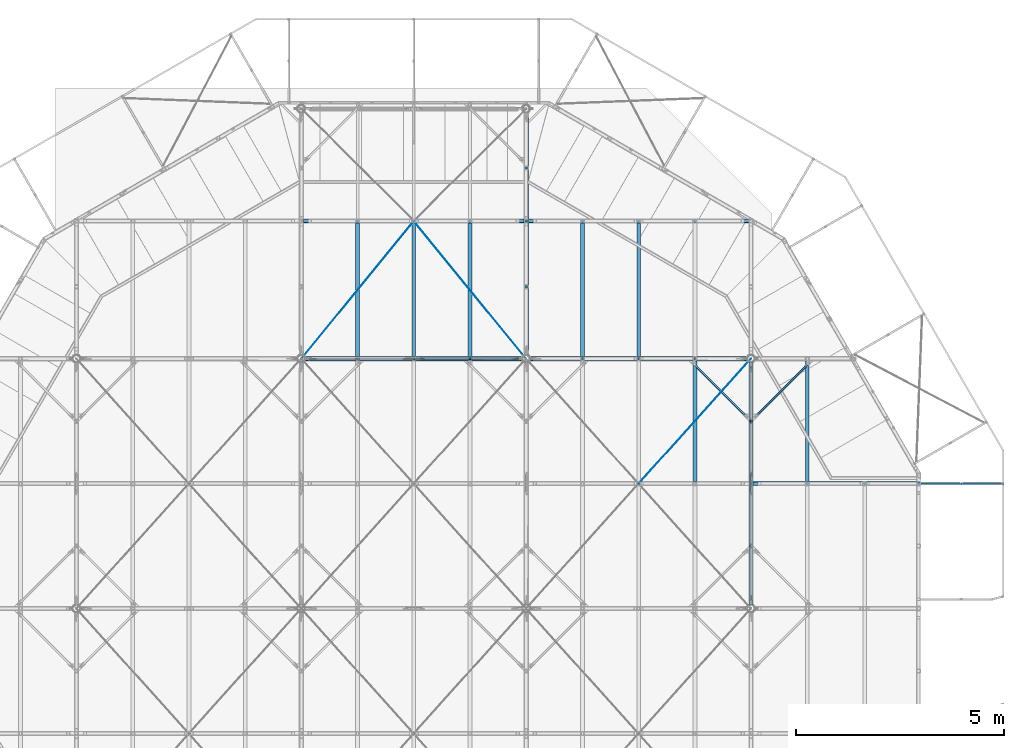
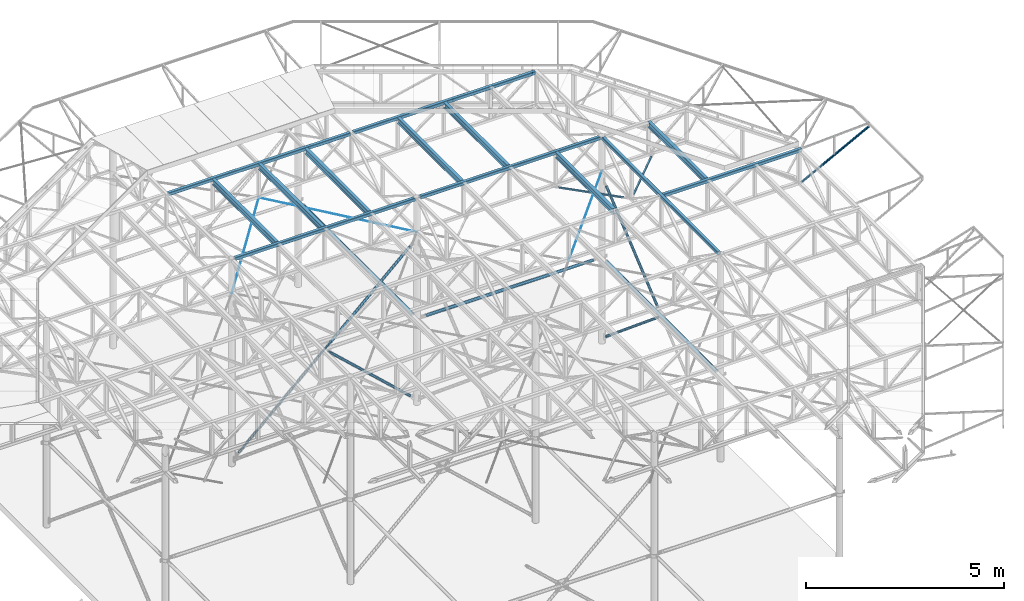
# One storey, part 18 of 132: 21 beams, 7 members, 28 elements without a shape of their own.
"""IFC2X3 building model written with IfcOpenShell, lengths in millimetres."""

from ifc_helpers import new_model, si_unit, frame, origin_with_axes, origin_2d_with_axis, place, context, subcontext, project, spatial, rectangle, hollow_rectangle, circle, hollow_circle, i_section, extrude, boolean, clip, halfspace, material, type_object, element, aggregate, save


model = new_model("IFC2X3")

# Units and contexts
model_context = context("Model", 3, precision=1e-05, world=origin_with_axes())
body_context = subcontext(model_context, "Body", "Model", "MODEL_VIEW")
ifc_project = project(units=[si_unit("LENGTHUNIT", "METRE", prefix="MILLI"), si_unit("AREAUNIT", "SQUARE_METRE"), si_unit("VOLUMEUNIT", "CUBIC_METRE"), si_unit("MASSUNIT", "GRAM", prefix="KILO"), si_unit("TIMEUNIT", "SECOND"), si_unit("PLANEANGLEUNIT", "RADIAN"), si_unit("SOLIDANGLEUNIT", "STERADIAN"), si_unit("THERMODYNAMICTEMPERATUREUNIT", "DEGREE_CELSIUS"), si_unit("LUMINOUSINTENSITYUNIT", "LUMEN")], contexts=[model_context])

# Site, building, storey
site_placement = place(None, origin_with_axes())
site = spatial("IfcSite", under=ifc_project, at=site_placement, Name="Budowa", CompositionType="ELEMENT")
building_placement = place(site_placement, origin_with_axes())
building = spatial("IfcBuilding", under=site, at=building_placement, Name="Undefined", CompositionType="ELEMENT")
storey_placement = place(building_placement, origin_with_axes())
storey = spatial("IfcBuildingStorey", under=building, at=storey_placement, Name="Undefined", CompositionType="ELEMENT", Elevation=0.0)

# Assembly, member
assembly_1_placement = place(storey_placement, origin_with_axes())
assembly_1 = element("IfcElementAssembly", 1, at=assembly_1_placement, inside=storey, Name="Steel Assembly", AssemblyPlace="NOTDEFINED", PredefinedType="RIGID_FRAME")
ifc_material_1 = material(Name="STEEL/S235JR")
member_type_1 = type_object("IfcMemberType", Name="CHS76.1*3", PredefinedType="NOTDEFINED")
member_1_placement = place(assembly_1_placement, frame((12125.0013347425, 17990.0000000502, 10116.0003779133), z_axis=(0.0, -1.0, 0.0), x_axis=(0.734552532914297, 0.0, -0.678551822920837)))
member_1 = element("IfcMember", 2, at=member_1_placement, type_object=member_type_1, material=ifc_material_1, Name="BEAM", ObjectType="CHS76.1*3", context=body_context, shape_type="CSG", body=[
    boolean("DIFFERENCE", boolean("DIFFERENCE", boolean("DIFFERENCE", boolean("DIFFERENCE", extrude(hollow_circle(Radius=38.05, WallThickness=3.0, at=origin_2d_with_axis()), frame((3399.19575233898, -1.88693269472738e-13, 0.0), z_axis=(-1.0, 0.0, 0.0), x_axis=(0.0, -1.0, 0.0)), (0.0, 0.0, 1.0), 3169.77), extrude(rectangle(XDim=10.0, YDim=80.1, at=origin_2d_with_axis()), frame((310.424563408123, 8.74467165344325e-13, 2.93223274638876e-06), z_axis=(-1.0, 0.0, 0.0), x_axis=(0.0, 0.0, -1.0)), (0.0, 0.0, 1.0), 83.0)), extrude(rectangle(XDim=10.0, YDim=78.1, at=origin_2d_with_axis()), frame((3318.19575233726, 0.0, 2.70282180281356e-06), z_axis=(1.0, 0.0, 0.0), x_axis=(0.0, 0.0, -1.0)), (0.0, 0.0, 1.0), 93.0)), halfspace(frame((3399.1957523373, -5.45696821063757e-12, -11.9999972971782), z_axis=(-1.0, 0.0, 0.0), x_axis=(0.0, 1.0, 0.0)), True)), halfspace(frame((229.424563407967, 5.45696821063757e-12, -11.9999970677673), z_axis=(1.0, 0.0, 0.0), x_axis=(0.0, -1.0, 0.0)), True)),
])
aggregate(assembly_1, [member_1])

assembly_2_placement = place(storey_placement, origin_with_axes())
assembly_2 = element("IfcElementAssembly", 3, at=assembly_2_placement, inside=storey, Name="Steel Assembly", AssemblyPlace="NOTDEFINED", PredefinedType="RIGID_FRAME")
member_2_placement = place(assembly_2_placement, frame((14684.1014860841, 17990.0000000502, 12480.0002212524), z_axis=(0.0, -1.0, 0.0), x_axis=(-0.734552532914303, 0.0, -0.67855182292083)))
member_2 = element("IfcMember", 4, at=member_2_placement, type_object=member_type_1, material=ifc_material_1, Name="BEAM", ObjectType="CHS76.1*3", context=body_context, shape_type="CSG", body=[
    boolean("DIFFERENCE", boolean("DIFFERENCE", boolean("DIFFERENCE", boolean("DIFFERENCE", extrude(hollow_circle(Radius=38.05, WallThickness=3.0, at=origin_2d_with_axis()), frame((3254.46533546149, 0.0, 0.0), z_axis=(-1.0, 0.0, 0.0), x_axis=(0.0, -1.0, 0.0)), (0.0, 0.0, 1.0), 3169.77), extrude(rectangle(XDim=10.0, YDim=80.1, at=origin_2d_with_axis()), frame((3173.46533545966, 5.74262859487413e-12, 3.21735569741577e-06), z_axis=(1.0, 0.0, 0.0), x_axis=(0.0, 0.0, -1.0)), (0.0, 0.0, 1.0), 83.0)), extrude(rectangle(XDim=10.0, YDim=78.1, at=origin_2d_with_axis()), frame((165.694149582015, 0.0, 2.42306850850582e-06), z_axis=(-1.0, 0.0, 0.0), x_axis=(0.0, 0.0, -1.0)), (0.0, 0.0, 1.0), 93.0)), halfspace(frame((3254.46533545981, 3.63797880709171e-12, -11.9999967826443), z_axis=(-1.0, 0.0, 0.0), x_axis=(0.0, 1.0, 0.0)), True)), halfspace(frame((84.6941495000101, -0.00128033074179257, -11.9999975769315), z_axis=(1.0, 0.0, 0.0), x_axis=(0.0, -1.0, 0.0)), True)),
])
aggregate(assembly_2, [member_2])

assembly_3_placement = place(storey_placement, origin_with_axes())
assembly_3 = element("IfcElementAssembly", 5, at=assembly_3_placement, inside=storey, Name="Steel Assembly", AssemblyPlace="NOTDEFINED", PredefinedType="RIGID_FRAME")
member_3_placement = place(assembly_3_placement, frame((20233.000002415, 17860.1013797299, 7739.00004577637), z_axis=(-1.0, 0.0, 0.0), x_axis=(0.0, -0.76906919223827, 0.639165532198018)))
member_3 = element("IfcMember", 6, at=member_3_placement, type_object=member_type_1, material=ifc_material_1, Name="BEAM", ObjectType="CHS76.1*3", context=body_context, shape_type="CSG", body=[
    boolean("DIFFERENCE", boolean("DIFFERENCE", boolean("DIFFERENCE", boolean("DIFFERENCE", extrude(hollow_circle(Radius=38.05, WallThickness=3.0, at=origin_2d_with_axis()), frame((3481.05096829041, 0.0, 0.0), z_axis=(-1.0, 0.0, 0.0), x_axis=(0.0, -1.0, 0.0)), (0.0, 0.0, 1.0), 3395.69), extrude(rectangle(XDim=10.0, YDim=80.1, at=origin_2d_with_axis()), frame((3400.05097323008, 9.67559365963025e-14, 1.74737942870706e-06), z_axis=(1.0, 0.0, 0.0), x_axis=(0.0, 0.0, 1.0)), (0.0, 0.0, 1.0), 83.0)), extrude(rectangle(XDim=10.0, YDim=78.0, at=origin_2d_with_axis()), frame((166.363191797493, 5.83418868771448e-11, 2.32343882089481e-06), z_axis=(-1.0, 0.0, 0.0), x_axis=(0.0, 0.0, 1.0)), (0.0, 0.0, 1.0), 93.0)), halfspace(frame((3481.05096828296, 1.09139364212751e-11, 12.0000029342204), z_axis=(-1.0, 0.0, 0.0), x_axis=(0.0, -1.0, 0.0)), True)), halfspace(frame((85.3631917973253, 4.72937244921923e-11, 12.0000023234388), z_axis=(1.0, 0.0, 0.0), x_axis=(0.0, 1.0, 0.0)), True)),
])
aggregate(assembly_3, [member_3])

assembly_4_placement = place(storey_placement, origin_with_axes())
assembly_4 = element("IfcElementAssembly", 7, at=assembly_4_placement, inside=storey, Name="Steel Assembly", AssemblyPlace="NOTDEFINED", PredefinedType="RIGID_FRAME")
member_4_placement = place(assembly_4_placement, frame((20233.0000024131, 17860.1013797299, 12492.9997558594), z_axis=(-1.0, 0.0, 0.0), x_axis=(0.0, -0.769069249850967, -0.639165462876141)))
member_4 = element("IfcMember", 8, at=member_4_placement, type_object=member_type_1, material=ifc_material_1, Name="BEAM", ObjectType="CHS76.1*3", context=body_context, shape_type="CSG", body=[
    boolean("DIFFERENCE", boolean("DIFFERENCE", boolean("DIFFERENCE", boolean("DIFFERENCE", extrude(hollow_circle(Radius=38.05, WallThickness=3.0, at=origin_2d_with_axis()), frame((3481.04986608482, -1.93237085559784e-13, 0.0), z_axis=(-1.0, 0.0, 0.0), x_axis=(0.0, -1.0, 0.0)), (0.0, 0.0, 1.0), 3395.69), extrude(rectangle(XDim=10.0, YDim=80.1, at=origin_2d_with_axis()), frame((3400.04985885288, -5.34461364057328e-13, 2.0142820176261e-06), z_axis=(1.0, 0.0, 0.0), x_axis=(0.0, 0.0, 1.0)), (0.0, 0.0, 1.0), 83.0)), extrude(rectangle(XDim=10.0, YDim=88.0, at=origin_2d_with_axis()), frame((166.363191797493, 5.83418868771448e-11, 2.32343882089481e-06), z_axis=(-1.0, 0.0, 0.0), x_axis=(0.0, 0.0, 1.0)), (0.0, 0.0, 1.0), 93.0)), halfspace(frame((3481.04986608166, -1.72803993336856e-11, 12.0000032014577), z_axis=(-1.0, 0.0, 0.0), x_axis=(0.0, -1.0, 0.0)), True)), halfspace(frame((85.3631917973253, 4.72937244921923e-11, 12.0000023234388), z_axis=(1.0, 0.0, 0.0), x_axis=(0.0, 1.0, 0.0)), True)),
])
aggregate(assembly_4, [member_4])

# Assembly, beam
assembly_5_placement = place(storey_placement, origin_with_axes())
assembly_5 = element("IfcElementAssembly", 9, at=assembly_5_placement, inside=storey, Name="Steel Assembly", AssemblyPlace="NOTDEFINED", PredefinedType="RIGID_FRAME")
beam_type_1 = type_object("IfcBeamType", Name="CHS88.9*3", PredefinedType="NOTDEFINED")
beam_1_placement = place(assembly_5_placement, frame((14832.9999935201, 18088.900000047, 10116.0003779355), z_axis=(1.0, 0.0, 0.0), x_axis=(0.0, 1.0, 0.0)))
beam_1 = element("IfcBeam", 10, at=beam_1_placement, type_object=beam_type_1, material=ifc_material_1, Name="BEAM", ObjectType="CHS88.9*3", context=body_context, shape_type="CSG", body=[
    boolean("DIFFERENCE", boolean("DIFFERENCE", boolean("DIFFERENCE", boolean("DIFFERENCE", extrude(hollow_circle(Radius=44.45, WallThickness=3.0, at=origin_2d_with_axis()), frame((5703.19209466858, 0.0, 0.0), z_axis=(-1.0, 0.0, 0.0), x_axis=(0.0, -1.0, 0.0)), (0.0, 0.0, 1.0), 5584.18), extrude(rectangle(XDim=9.0, YDim=92.9, at=origin_2d_with_axis()), frame((5602.19209466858, 0.0, 3.70549059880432e-06), z_axis=(1.0, 0.0, 0.0), x_axis=(0.0, 0.0, -1.0)), (0.0, 0.0, 1.0), 103.0)), extrude(rectangle(XDim=9.0, YDim=92.9, at=origin_2d_with_axis()), frame((220.00790537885, 0.0, 3.42542261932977e-06), z_axis=(-1.0, 0.0, 0.0), x_axis=(0.0, 0.0, -1.0)), (0.0, 0.0, 1.0), 103.0)), halfspace(frame((5703.19209466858, 0.0, -11.9999962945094), z_axis=(-1.0, 0.0, 0.0), x_axis=(0.0, 1.0, 0.0)), True)), halfspace(frame((119.00790537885, 0.0, -11.9999965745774), z_axis=(1.0, 0.0, 0.0), x_axis=(0.0, -1.0, 0.0)), True)),
])
aggregate(assembly_5, [beam_1])

assembly_6_placement = place(storey_placement, origin_with_axes())
assembly_6 = element("IfcElementAssembly", 11, at=assembly_6_placement, inside=storey, Name="Steel Assembly", AssemblyPlace="NOTDEFINED", PredefinedType="RIGID_FRAME")
beam_2_placement = place(assembly_6_placement, frame((14913.9011382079, 17998.0000028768, 10116.0003779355), z_axis=(0.0, -1.0, 0.0), x_axis=(1.0, 0.0, 0.0)))
beam_2 = element("IfcBeam", 12, at=beam_2_placement, type_object=beam_type_1, material=ifc_material_1, Name="BEAM", ObjectType="CHS88.9*3", context=body_context, shape_type="CSG", body=[
    boolean("DIFFERENCE", boolean("DIFFERENCE", boolean("DIFFERENCE", boolean("DIFFERENCE", boolean("DIFFERENCE", extrude(hollow_circle(Radius=44.45, WallThickness=3.0, at=origin_2d_with_axis()), frame((5057.96216744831, 0.0, 0.0), z_axis=(-1.0, 0.0, 0.0), x_axis=(0.0, -1.0, 0.0)), (0.0, 0.0, 1.0), 4893.73), extrude(rectangle(XDim=9.0, YDim=92.9, at=origin_2d_with_axis()), frame((265.235555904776, 1.81898940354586e-12, 3.42543353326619e-06), z_axis=(-1.0, 0.0, 0.0), x_axis=(0.0, 0.0, 1.0)), (0.0, 0.0, 1.0), 103.0)), extrude(rectangle(XDim=9.0, YDim=92.9, at=origin_2d_with_axis()), frame((4956.96216744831, 1.81898940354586e-12, 3.42543353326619e-06), z_axis=(1.0, 0.0, 0.0), x_axis=(0.0, 0.0, -1.0)), (0.0, 0.0, 1.0), 103.0)), extrude(rectangle(XDim=8.0, YDim=80.1, at=origin_2d_with_axis()), frame((5006.96216666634, 0.0, 2.93223274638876e-06), z_axis=(1.0, 0.0, 0.0), x_axis=(0.0, 0.0, 1.0)), (0.0, 0.0, 1.0), 82.0)), halfspace(frame((5057.96216744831, 1.81898940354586e-12, -11.9999965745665), z_axis=(-1.0, 0.0, 0.0), x_axis=(0.0, 1.0, 0.0)), True)), halfspace(frame((164.235555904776, 1.81898940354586e-12, -11.9999965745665), z_axis=(1.0, 0.0, 0.0), x_axis=(0.0, 0.0, 1.0)), True)),
])
aggregate(assembly_6, [beam_2])

assembly_7_placement = place(storey_placement, origin_with_axes())
assembly_7 = element("IfcElementAssembly", 13, at=assembly_7_placement, inside=storey, Name="Steel Assembly", AssemblyPlace="NOTDEFINED", PredefinedType="RIGID_FRAME")
beam_3_placement = place(assembly_7_placement, frame((20232.9999935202, 12088.900000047, 10116.0003779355), z_axis=(1.0, 0.0, 0.0), x_axis=(0.0, 1.0, 0.0)))
beam_3 = element("IfcBeam", 14, at=beam_3_placement, type_object=beam_type_1, material=ifc_material_1, Name="BEAM", ObjectType="CHS88.9*3", context=body_context, shape_type="CSG", body=[
    boolean("DIFFERENCE", boolean("DIFFERENCE", boolean("DIFFERENCE", boolean("DIFFERENCE", extrude(hollow_circle(Radius=44.45, WallThickness=3.0, at=origin_2d_with_axis()), frame((5703.19209466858, 0.0, 0.0), z_axis=(-1.0, 0.0, 0.0), x_axis=(0.0, -1.0, 0.0)), (0.0, 0.0, 1.0), 5584.18), extrude(rectangle(XDim=9.0, YDim=92.9, at=origin_2d_with_axis()), frame((5602.19209466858, 0.0, 3.70549059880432e-06), z_axis=(1.0, 0.0, 0.0), x_axis=(0.0, 0.0, -1.0)), (0.0, 0.0, 1.0), 103.0)), extrude(rectangle(XDim=9.0, YDim=92.9, at=origin_2d_with_axis()), frame((220.00790537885, 0.0, 3.42542261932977e-06), z_axis=(-1.0, 0.0, 0.0), x_axis=(0.0, 0.0, -1.0)), (0.0, 0.0, 1.0), 103.0)), halfspace(frame((5703.19209466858, 0.0, -11.9999962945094), z_axis=(-1.0, 0.0, 0.0), x_axis=(0.0, 1.0, 0.0)), True)), halfspace(frame((119.00790537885, 0.0, -11.9999965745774), z_axis=(1.0, 0.0, 0.0), x_axis=(0.0, -1.0, 0.0)), True)),
])
aggregate(assembly_7, [beam_3])

# Assembly, member
assembly_8_placement = place(storey_placement, origin_with_axes())
assembly_8 = element("IfcElementAssembly", 15, at=assembly_8_placement, inside=storey, Name="Steel Assembly", AssemblyPlace="NOTDEFINED", PredefinedType="RIGID_FRAME")
ifc_material_2 = material(Name="STEEL/S235")
member_type_2 = type_object("IfcMemberType", Name="CHS60.3*6.3", PredefinedType="NOTDEFINED")
member_5_placement = place(assembly_8_placement, frame((12125.0013347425, 17992.0000000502, 10116.0003779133), z_axis=(0.0, -1.0, 0.0), x_axis=(0.734552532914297, 0.0, -0.678551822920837)))
member_5 = element("IfcMember", 16, at=member_5_placement, type_object=member_type_2, material=ifc_material_2, Name="BEAM", ObjectType="CHS60.3*6.3", context=body_context, shape_type="CSG", body=[
    boolean("DIFFERENCE", boolean("DIFFERENCE", boolean("DIFFERENCE", boolean("DIFFERENCE", extrude(hollow_circle(Radius=30.15, WallThickness=6.3, at=origin_2d_with_axis()), frame((3409.19575233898, -1.89248380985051e-13, -3.63797880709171e-12), z_axis=(-1.0, 0.0, 0.0), x_axis=(0.0, -1.0, 0.0)), (0.0, 0.0, 1.0), 3266.98), extrude(rectangle(XDim=8.0, YDim=64.3, at=origin_2d_with_axis()), frame((3359.19575233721, 2.18269846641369e-12, 2.70281816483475e-06), z_axis=(1.0, 0.0, 0.0), x_axis=(0.0, 0.0, -1.0)), (0.0, 0.0, 1.0), 52.0)), extrude(rectangle(XDim=8.0, YDim=64.3, at=origin_2d_with_axis()), frame((192.216896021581, -3.32911476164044e-12, 2.323435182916e-06), z_axis=(-1.0, 0.0, 0.0), x_axis=(0.0, 0.0, -1.0)), (0.0, 0.0, 1.0), 52.0)), halfspace(frame((3409.1957523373, 0.0, -11.9999972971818), z_axis=(-1.0, 0.0, 0.0), x_axis=(0.0, 1.0, 0.0)), True)), halfspace(frame((142.216896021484, -5.45696821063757e-12, -11.9999976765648), z_axis=(1.0, 0.0, 0.0), x_axis=(0.0, -1.0, 0.0)), True)),
])
aggregate(assembly_8, [member_5])

assembly_9_placement = place(storey_placement, origin_with_axes())
assembly_9 = element("IfcElementAssembly", 17, at=assembly_9_placement, inside=storey, Name="Steel Assembly", AssemblyPlace="NOTDEFINED", PredefinedType="RIGID_FRAME")
member_6_placement = place(assembly_9_placement, frame((14684.1014860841, 17992.0000000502, 12480.0002212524), z_axis=(0.0, -1.0, 0.0), x_axis=(-0.734552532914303, 0.0, -0.67855182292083)))
member_6 = element("IfcMember", 18, at=member_6_placement, type_object=member_type_2, material=ifc_material_2, Name="BEAM", ObjectType="CHS60.3*6.3", context=body_context, shape_type="CSG", body=[
    boolean("DIFFERENCE", boolean("DIFFERENCE", boolean("DIFFERENCE", boolean("DIFFERENCE", extrude(hollow_circle(Radius=30.15, WallThickness=6.3, at=origin_2d_with_axis()), frame((6893.08928483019, 3.82643321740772e-13, -3.63797880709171e-12), z_axis=(-1.0, 0.0, 0.0), x_axis=(0.0, -1.0, 0.0)), (0.0, 0.0, 1.0), 6818.4), extrude(rectangle(XDim=8.0, YDim=64.3, at=origin_2d_with_axis()), frame((124.694149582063, -2.13606909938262e-13, 2.42306487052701e-06), z_axis=(-1.0, 0.0, 0.0), x_axis=(0.0, 0.0, -1.0)), (0.0, 0.0, 1.0), 52.0)), extrude(rectangle(XDim=8.0, YDim=64.3, at=origin_2d_with_axis()), frame((6843.08928482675, 2.23465690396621e-12, 2.42306487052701e-06), z_axis=(1.0, 0.0, 0.0), x_axis=(0.0, 0.0, -1.0)), (0.0, 0.0, 1.0), 52.0)), halfspace(frame((6893.08928482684, 4.54747350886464e-12, -11.9999975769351), z_axis=(-1.0, 0.0, 0.0), x_axis=(0.0, 1.0, 0.0)), True)), halfspace(frame((74.6941495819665, -3.63797880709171e-12, -11.9999975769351), z_axis=(1.0, 0.0, 0.0), x_axis=(0.0, -1.0, 0.0)), True)),
])
aggregate(assembly_9, [member_6])

# Assembly, beam
assembly_10_placement = place(storey_placement, origin_with_axes())
assembly_10 = element("IfcElementAssembly", 19, at=assembly_10_placement, inside=storey, Name="Steel Assembly", AssemblyPlace="NOTDEFINED", PredefinedType="RIGID_FRAME")
beam_type_2 = type_object("IfcBeamType", Name="IPE180", PredefinedType="NOTDEFINED")
beam_4_placement = place(assembly_10_placement, frame((21573.8999999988, 15050.0000000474, 13790.0), z_axis=(0.0, 0.0, 1.0), x_axis=(0.0, 1.0, 0.0)))
beam_4 = element("IfcBeam", 20, at=beam_4_placement, type_object=beam_type_2, material=ifc_material_2, Name="BEAM", ObjectType="IPE180", context=body_context, shape_type="SweptSolid", body=[
    extrude(i_section(OverallWidth=91.0, OverallDepth=180.0, WebThickness=5.300000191, FlangeThickness=8.0, FilletRadius=9.0, at=origin_2d_with_axis()), frame((2900.00000000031, 0.0, 0.0), z_axis=(-1.0, 0.0, 0.0), x_axis=(0.0, -1.0, 0.0)), (0.0, 0.0, 1.0), 2900.0),
])
aggregate(assembly_10, [beam_4])

assembly_11_placement = place(storey_placement, origin_with_axes())
assembly_11 = element("IfcElementAssembly", 21, at=assembly_11_placement, inside=storey, Name="Steel Assembly", AssemblyPlace="NOTDEFINED", PredefinedType="RIGID_FRAME")
beam_5_placement = place(assembly_11_placement, frame((16174.9999999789, 18050.000000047, 13790.0), z_axis=(0.0, 0.0, 1.0), x_axis=(0.0, 1.0, 0.0)))
beam_5 = element("IfcBeam", 22, at=beam_5_placement, type_object=beam_type_2, material=ifc_material_2, Name="BEAM", ObjectType="IPE180", context=body_context, shape_type="SweptSolid", body=[
    extrude(i_section(OverallWidth=91.0, OverallDepth=180.0, WebThickness=5.300000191, FlangeThickness=8.0, FilletRadius=9.0, at=origin_2d_with_axis()), frame((3209.99999999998, 0.0, 0.0), z_axis=(-1.0, 0.0, 0.0), x_axis=(0.0, -1.0, 0.0)), (0.0, 0.0, 1.0), 3210.0),
])
aggregate(assembly_11, [beam_5])

assembly_12_placement = place(storey_placement, origin_with_axes())
assembly_12 = element("IfcElementAssembly", 23, at=assembly_12_placement, inside=storey, Name="Steel Assembly", AssemblyPlace="NOTDEFINED", PredefinedType="RIGID_FRAME")
beam_6_placement = place(assembly_12_placement, frame((18874.9999999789, 15050.0000000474, 13790.0), z_axis=(0.0, 0.0, 1.0), x_axis=(0.0, 1.0, 0.0)))
beam_6 = element("IfcBeam", 24, at=beam_6_placement, type_object=beam_type_2, material=ifc_material_2, Name="BEAM", ObjectType="IPE180", context=body_context, shape_type="SweptSolid", body=[
    extrude(i_section(OverallWidth=91.0, OverallDepth=180.0, WebThickness=5.300000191, FlangeThickness=8.0, FilletRadius=9.0, at=origin_2d_with_axis()), frame((2900.00000000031, 0.0, 0.0), z_axis=(-1.0, 0.0, 0.0), x_axis=(0.0, -1.0, 0.0)), (0.0, 0.0, 1.0), 2900.0),
])
aggregate(assembly_12, [beam_6])

assembly_13_placement = place(storey_placement, origin_with_axes())
assembly_13 = element("IfcElementAssembly", 25, at=assembly_13_placement, inside=storey, Name="Steel Assembly", AssemblyPlace="NOTDEFINED", PredefinedType="RIGID_FRAME")
beam_7_placement = place(assembly_13_placement, frame((17524.9999999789, 18050.000000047, 13790.0), z_axis=(0.0, 0.0, 1.0), x_axis=(0.0, 1.0, 0.0)))
beam_7 = element("IfcBeam", 26, at=beam_7_placement, type_object=beam_type_2, material=ifc_material_2, Name="BEAM", ObjectType="IPE180", context=body_context, shape_type="SweptSolid", body=[
    extrude(i_section(OverallWidth=91.0, OverallDepth=180.0, WebThickness=5.300000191, FlangeThickness=8.0, FilletRadius=9.0, at=origin_2d_with_axis()), frame((3209.99999999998, 0.0, 0.0), z_axis=(-1.0, 0.0, 0.0), x_axis=(0.0, -1.0, 0.0)), (0.0, 0.0, 1.0), 3210.0),
])
aggregate(assembly_13, [beam_7])

assembly_14_placement = place(storey_placement, origin_with_axes())
assembly_14 = element("IfcElementAssembly", 27, at=assembly_14_placement, inside=storey, Name="Steel Assembly", AssemblyPlace="NOTDEFINED", PredefinedType="RIGID_FRAME")
beam_8_placement = place(assembly_14_placement, frame((10774.9999999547, 18050.000000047, 13790.0), z_axis=(0.0, 0.0, 1.0), x_axis=(0.0, 1.0, 0.0)))
beam_8 = element("IfcBeam", 28, at=beam_8_placement, type_object=beam_type_2, material=ifc_material_2, Name="BEAM", ObjectType="IPE180", context=body_context, shape_type="SweptSolid", body=[
    extrude(i_section(OverallWidth=91.0, OverallDepth=180.0, WebThickness=5.300000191, FlangeThickness=8.0, FilletRadius=9.0, at=origin_2d_with_axis()), frame((3209.99999999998, 0.0, 0.0), z_axis=(-1.0, 0.0, 0.0), x_axis=(0.0, -1.0, 0.0)), (0.0, 0.0, 1.0), 3210.0),
])
aggregate(assembly_14, [beam_8])

assembly_15_placement = place(storey_placement, origin_with_axes())
assembly_15 = element("IfcElementAssembly", 29, at=assembly_15_placement, inside=storey, Name="Steel Assembly", AssemblyPlace="NOTDEFINED", PredefinedType="RIGID_FRAME")
beam_9_placement = place(assembly_15_placement, frame((13474.9999999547, 18050.000000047, 13790.0), z_axis=(0.0, 0.0, 1.0), x_axis=(0.0, 1.0, 0.0)))
beam_9 = element("IfcBeam", 30, at=beam_9_placement, type_object=beam_type_2, material=ifc_material_2, Name="BEAM", ObjectType="IPE180", context=body_context, shape_type="SweptSolid", body=[
    extrude(i_section(OverallWidth=91.0, OverallDepth=180.0, WebThickness=5.300000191, FlangeThickness=8.0, FilletRadius=9.0, at=origin_2d_with_axis()), frame((3209.99999999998, 0.0, 0.0), z_axis=(-1.0, 0.0, 0.0), x_axis=(0.0, -1.0, 0.0)), (0.0, 0.0, 1.0), 3210.0),
])
aggregate(assembly_15, [beam_9])

assembly_16_placement = place(storey_placement, origin_with_axes())
assembly_16 = element("IfcElementAssembly", 31, at=assembly_16_placement, inside=storey, Name="Steel Assembly", AssemblyPlace="NOTDEFINED", PredefinedType="RIGID_FRAME")
beam_10_placement = place(assembly_16_placement, frame((12124.9999999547, 18050.000000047, 13790.0), z_axis=(0.0, 0.0, 1.0), x_axis=(0.0, 1.0, 0.0)))
beam_10 = element("IfcBeam", 32, at=beam_10_placement, type_object=beam_type_2, material=ifc_material_2, Name="BEAM", ObjectType="IPE180", context=body_context, shape_type="SweptSolid", body=[
    extrude(i_section(OverallWidth=91.0, OverallDepth=180.0, WebThickness=5.300000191, FlangeThickness=8.0, FilletRadius=9.0, at=origin_2d_with_axis()), frame((3209.99999999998, 0.0, 0.0), z_axis=(-1.0, 0.0, 0.0), x_axis=(0.0, -1.0, 0.0)), (0.0, 0.0, 1.0), 3210.0),
])
aggregate(assembly_16, [beam_10])

# Assembly, member
assembly_17_placement = place(storey_placement, origin_with_axes())
assembly_17 = element("IfcElementAssembly", 33, at=assembly_17_placement, inside=storey, Name="Steel Assembly", AssemblyPlace="NOTDEFINED", PredefinedType="RIGID_FRAME")
member_type_3 = type_object("IfcMemberType", Name="SHS50*4", PredefinedType="NOTDEFINED")
member_7_placement = place(assembly_17_placement, frame((24288.2796111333, 15000.0000000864, 12802.1351883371), z_axis=(0.0, 1.0, 0.0), x_axis=(0.885407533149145, 0.0, 0.464815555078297)))
member_7 = element("IfcMember", 34, at=member_7_placement, type_object=member_type_3, material=ifc_material_2, Name="BEAM", ObjectType="SHS50*4", context=body_context, shape_type="Clipping", body=[
    clip(clip(extrude(hollow_rectangle(XDim=50.0, YDim=50.0, WallThickness=4.0, InnerFilletRadius=4.0, OuterFilletRadius=8.0, at=origin_2d_with_axis()), frame((2286.55526217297, 7.105427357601e-15, -1.81898940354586e-12), z_axis=(-1.0, 0.0, 0.0), x_axis=(0.0, -1.0, 0.0)), (0.0, 0.0, 1.0), 2286.56), halfspace(frame((26.2486785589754, -24.9999999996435, -25.0000000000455), z_axis=(-0.885407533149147, -0.464815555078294, 0.0), x_axis=(-0.464815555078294, 0.885407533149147, 0.0)), False)), halfspace(frame((2258.9602037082, 25.0000000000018, -1.41881173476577e-10), z_axis=(-0.855808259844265, 0.517293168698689, 0.0), x_axis=(0.0, 0.0, 1.0)), True)),
])
aggregate(assembly_17, [member_7])

# Assembly, beam
assembly_18_placement = place(storey_placement, origin_with_axes())
assembly_18 = element("IfcElementAssembly", 35, at=assembly_18_placement, inside=storey, Name="Steel Assembly", AssemblyPlace="NOTDEFINED", PredefinedType="RIGID_FRAME")
beam_type_3 = type_object("IfcBeamType", Name="D16", PredefinedType="NOTDEFINED")
beam_11_placement = place(assembly_18_placement, frame((20224.9999999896, 18000.0000000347, 12780.0), z_axis=(0.0, 0.0, 1.0), x_axis=(-0.668964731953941, -0.743294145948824, 0.0)))
beam_11 = element("IfcBeam", 36, at=beam_11_placement, type_object=beam_type_3, material=ifc_material_2, Name="BEAM", ObjectType="D16", context=body_context, shape_type="SweptSolid", body=[
    extrude(circle(Radius=8.0, at=origin_2d_with_axis()), frame((4036.08721501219, 2.30699503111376e-13, 1.81898940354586e-12), z_axis=(-1.0, 0.0, 0.0), x_axis=(0.0, -1.0, 0.0)), (0.0, 0.0, 1.0), 4036.09),
])
aggregate(assembly_18, [beam_11])

assembly_19_placement = place(storey_placement, origin_with_axes())
assembly_19 = element("IfcElementAssembly", 37, at=assembly_19_placement, inside=storey, Name="Steel Assembly", AssemblyPlace="NOTDEFINED", PredefinedType="RIGID_FRAME")
beam_12_placement = place(assembly_19_placement, frame((9424.99999994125, 18000.0000000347, 12780.0), z_axis=(0.0, 0.0, 1.0), x_axis=(0.632089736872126, 0.774895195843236, 0.0)))
beam_12 = element("IfcBeam", 38, at=beam_12_placement, type_object=beam_type_3, material=ifc_material_2, Name="BEAM", ObjectType="D16", context=body_context, shape_type="SweptSolid", body=[
    extrude(circle(Radius=8.0, at=origin_2d_with_axis()), frame((4271.54538738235, 0.0, 0.0), z_axis=(-1.0, 0.0, 0.0), x_axis=(0.0, -1.0, 0.0)), (0.0, 0.0, 1.0), 4271.55),
])
aggregate(assembly_19, [beam_12])

assembly_20_placement = place(storey_placement, origin_with_axes())
assembly_20 = element("IfcElementAssembly", 39, at=assembly_20_placement, inside=storey, Name="Steel Assembly", AssemblyPlace="NOTDEFINED", PredefinedType="RIGID_FRAME")
beam_13_placement = place(assembly_20_placement, frame((12124.9999993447, 21309.9999994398, 12780.0), z_axis=(0.0, 0.0, 1.0), x_axis=(0.632089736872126, -0.774895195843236, 0.0)))
beam_13 = element("IfcBeam", 40, at=beam_13_placement, type_object=beam_type_3, material=ifc_material_2, Name="BEAM", ObjectType="D16", context=body_context, shape_type="SweptSolid", body=[
    extrude(circle(Radius=8.0, at=origin_2d_with_axis()), frame((4271.54538738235, 0.0, 0.0), z_axis=(-1.0, 0.0, 0.0), x_axis=(0.0, -1.0, 0.0)), (0.0, 0.0, 1.0), 4271.55),
])
aggregate(assembly_20, [beam_13])

assembly_21_placement = place(storey_placement, origin_with_axes())
assembly_21 = element("IfcElementAssembly", 41, at=assembly_21_placement, inside=storey, Name="Steel Assembly", AssemblyPlace="NOTDEFINED", PredefinedType="RIGID_FRAME")
beam_type_4 = type_object("IfcBeamType", Name="SHS50*5", PredefinedType="NOTDEFINED")
beam_14_placement = place(assembly_21_placement, frame((19975.0000000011, 16250.0000000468, 12830.0), z_axis=(0.0, 0.0, 1.0), x_axis=(0.707106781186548, 0.707106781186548, 0.0)))
beam_14 = element("IfcBeam", 42, at=beam_14_placement, type_object=beam_type_4, material=ifc_material_2, Name="BEAM", ObjectType="SHS50*5", context=body_context, shape_type="Clipping", body=[
    clip(clip(extrude(hollow_rectangle(XDim=50.0, YDim=50.0, WallThickness=5.0, InnerFilletRadius=5.0, OuterFilletRadius=10.0, at=origin_2d_with_axis()), frame((2264.36406349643, -1.81898940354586e-12, 1.81898940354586e-12), z_axis=(-1.0, 0.0, 0.0), x_axis=(0.0, -1.0, 0.0)), (0.0, 0.0, 1.0), 1700.3), halfspace(frame((2264.36406350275, 1.44245859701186e-09, -8.99999999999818), z_axis=(-1.0, 0.0, 0.0), x_axis=(0.0, 1.0, 0.0)), True)), halfspace(frame((564.063061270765, -1.43882061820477e-09, -8.99999999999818), z_axis=(1.0, 0.0, 0.0), x_axis=(0.0, -1.0, 0.0)), True)),
])
aggregate(assembly_21, [beam_14])

assembly_22_placement = place(storey_placement, origin_with_axes())
assembly_22 = element("IfcElementAssembly", 43, at=assembly_22_placement, inside=storey, Name="Steel Assembly", AssemblyPlace="NOTDEFINED", PredefinedType="RIGID_FRAME")
beam_15_placement = place(assembly_22_placement, frame((20475.0000000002, 16250.0000000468, 12830.0), z_axis=(0.0, 0.0, 1.0), x_axis=(-0.707106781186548, 0.707106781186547, 0.0)))
beam_15 = element("IfcBeam", 44, at=beam_15_placement, type_object=beam_type_4, material=ifc_material_2, Name="BEAM", ObjectType="SHS50*5", context=body_context, shape_type="Clipping", body=[
    clip(clip(extrude(hollow_rectangle(XDim=50.0, YDim=50.0, WallThickness=5.0, InnerFilletRadius=5.0, OuterFilletRadius=10.0, at=origin_2d_with_axis()), frame((2264.36406349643, -1.81898940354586e-12, 1.81898940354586e-12), z_axis=(-1.0, 0.0, 0.0), x_axis=(0.0, -1.0, 0.0)), (0.0, 0.0, 1.0), 1700.3), halfspace(frame((2264.36406350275, 1.44245859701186e-09, -8.99999999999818), z_axis=(-1.0, 0.0, 0.0), x_axis=(0.0, 1.0, 0.0)), True)), halfspace(frame((564.063061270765, -1.43882061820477e-09, -8.99999999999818), z_axis=(1.0, 0.0, 0.0), x_axis=(0.0, -1.0, 0.0)), True)),
])
aggregate(assembly_22, [beam_15])

assembly_23_placement = place(storey_placement, origin_with_axes())
assembly_23 = element("IfcElementAssembly", 45, at=assembly_23_placement, inside=storey, Name="Steel Assembly", AssemblyPlace="NOTDEFINED", PredefinedType="RIGID_FRAME")
beam_type_5 = type_object("IfcBeamType", Name="SHS100*8", PredefinedType="NOTDEFINED")
beam_16_placement = place(assembly_23_placement, frame((20274.9, 15000.000000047, 13830.0), z_axis=(0.0, -1.0, 0.0), x_axis=(1.0, 0.0, 0.0)))
beam_16 = element("IfcBeam", 46, at=beam_16_placement, type_object=beam_type_5, material=ifc_material_2, Name="BEAM", ObjectType="SHS100*8", context=body_context, shape_type="SweptSolid", body=[
    extrude(hollow_rectangle(XDim=100.0, YDim=100.0, WallThickness=8.0, InnerFilletRadius=8.0, OuterFilletRadius=16.0, at=origin_2d_with_axis()), frame((4025.0, 0.0, 0.0), z_axis=(-1.0, 0.0, 0.0), x_axis=(0.0, -1.0, 0.0)), (0.0, 0.0, 1.0), 4025.0),
])
aggregate(assembly_23, [beam_16])

assembly_24_placement = place(storey_placement, origin_with_axes())
assembly_24 = element("IfcElementAssembly", 47, at=assembly_24_placement, inside=storey, Name="Steel Assembly", AssemblyPlace="NOTDEFINED", PredefinedType="RIGID_FRAME")
beam_17_placement = place(assembly_24_placement, frame((14874.9999999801, 21310.000000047, 13830.0), z_axis=(0.0, -1.0, 0.0), x_axis=(1.0, 0.0, 0.0)))
beam_17 = element("IfcBeam", 48, at=beam_17_placement, type_object=beam_type_5, material=ifc_material_2, Name="BEAM", ObjectType="SHS100*8", context=body_context, shape_type="SweptSolid", body=[
    extrude(hollow_rectangle(XDim=100.0, YDim=100.0, WallThickness=8.0, InnerFilletRadius=8.0, OuterFilletRadius=16.0, at=origin_2d_with_axis()), frame((5300.0, 0.0, 0.0), z_axis=(-1.0, 0.0, 0.0), x_axis=(0.0, -1.0, 0.0)), (0.0, 0.0, 1.0), 5300.0),
])
aggregate(assembly_24, [beam_17])

assembly_25_placement = place(storey_placement, origin_with_axes())
assembly_25 = element("IfcElementAssembly", 49, at=assembly_25_placement, inside=storey, Name="Steel Assembly", AssemblyPlace="NOTDEFINED", PredefinedType="RIGID_FRAME")
beam_18_placement = place(assembly_25_placement, frame((9474.9999999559, 21310.000000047, 13830.0), z_axis=(0.0, -1.0, 0.0), x_axis=(1.0, 0.0, 0.0)))
beam_18 = element("IfcBeam", 50, at=beam_18_placement, type_object=beam_type_5, material=ifc_material_2, Name="BEAM", ObjectType="SHS100*8", context=body_context, shape_type="SweptSolid", body=[
    extrude(hollow_rectangle(XDim=100.0, YDim=100.0, WallThickness=8.0, InnerFilletRadius=8.0, OuterFilletRadius=16.0, at=origin_2d_with_axis()), frame((5300.0, 0.0, 0.0), z_axis=(-1.0, 0.0, 0.0), x_axis=(0.0, -1.0, 0.0)), (0.0, 0.0, 1.0), 5300.0),
])
aggregate(assembly_25, [beam_18])

assembly_26_placement = place(storey_placement, origin_with_axes())
assembly_26 = element("IfcElementAssembly", 51, at=assembly_26_placement, inside=storey, Name="Steel Assembly", AssemblyPlace="NOTDEFINED", PredefinedType="RIGID_FRAME")
beam_19_placement = place(assembly_26_placement, frame((20225.0, 12088.900000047, 13830.0), z_axis=(1.0, 0.0, 0.0), x_axis=(0.0, 1.0, 0.0)))
beam_19 = element("IfcBeam", 52, at=beam_19_placement, type_object=beam_type_5, material=ifc_material_2, Name="BEAM", ObjectType="SHS100*8", context=body_context, shape_type="CSG", body=[
    boolean("DIFFERENCE", boolean("DIFFERENCE", boolean("DIFFERENCE", boolean("DIFFERENCE", extrude(hollow_rectangle(XDim=100.0, YDim=100.0, WallThickness=8.0, InnerFilletRadius=8.0, OuterFilletRadius=16.0, at=origin_2d_with_axis()), frame((5911.09999999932, 0.0, 0.0), z_axis=(-1.0, 0.0, 0.0), x_axis=(0.0, -1.0, 0.0)), (0.0, 0.0, 1.0), 6000.0), extrude(circle(Radius=89.9, at=origin_2d_with_axis()), frame((5911.09999999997, 1950.0, 0.0), z_axis=(0.0, -1.0, 0.0), x_axis=(-1.0, 0.0, 0.0)), (0.0, 0.0, 1.0), 2100.0)), extrude(circle(Radius=89.9, at=origin_2d_with_axis()), frame((-88.9000000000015, 1950.0, -5.45696821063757e-12), z_axis=(0.0, -1.0, 0.0), x_axis=(-1.0, 0.0, 0.0)), (0.0, 0.0, 1.0), 2100.0)), halfspace(frame((5911.09999999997, -6339.0, -6.3664629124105e-12), z_axis=(-1.0, 0.0, 0.0), x_axis=(0.0, 0.0, -1.0)), True)), halfspace(frame((-88.9000000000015, -6339.0, -5.45696821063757e-12), z_axis=(-1.0, 0.0, 0.0), x_axis=(0.0, 0.0, -1.0)), False)),
])
aggregate(assembly_26, [beam_19])

assembly_27_placement = place(storey_placement, origin_with_axes())
assembly_27 = element("IfcElementAssembly", 53, at=assembly_27_placement, inside=storey, Name="Steel Assembly", AssemblyPlace="NOTDEFINED", PredefinedType="RIGID_FRAME")
beam_20_placement = place(assembly_27_placement, frame((14913.9999999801, 18000.000000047, 13830.0), z_axis=(0.0, -1.0, 0.0), x_axis=(1.0, 0.0, 0.0)))
beam_20 = element("IfcBeam", 54, at=beam_20_placement, type_object=beam_type_5, material=ifc_material_2, Name="BEAM", ObjectType="SHS100*8", context=body_context, shape_type="CSG", body=[
    boolean("DIFFERENCE", boolean("DIFFERENCE", boolean("DIFFERENCE", boolean("DIFFERENCE", extrude(hollow_rectangle(XDim=100.0, YDim=100.0, WallThickness=8.0, InnerFilletRadius=8.0, OuterFilletRadius=16.0, at=origin_2d_with_axis()), frame((5311.00000001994, 0.0, 0.0), z_axis=(-1.0, 0.0, 0.0), x_axis=(0.0, -1.0, 0.0)), (0.0, 0.0, 1.0), 5400.0), extrude(circle(Radius=89.9, at=origin_2d_with_axis()), frame((-89.0000000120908, 1950.0, 1.09139364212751e-11), z_axis=(0.0, -1.0, 0.0), x_axis=(0.0, 0.0, 1.0)), (0.0, 0.0, 1.0), 2100.0)), extrude(circle(Radius=89.9, at=origin_2d_with_axis()), frame((5311.00000001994, 1950.0, 7.27595761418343e-12), z_axis=(0.0, -1.0, 0.0), x_axis=(0.0, 0.0, 1.0)), (0.0, 0.0, 1.0), 2100.0)), halfspace(frame((5311.00000001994, -6339.0, 7.27595761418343e-12), z_axis=(-1.0, 0.0, 0.0), x_axis=(0.0, 0.0, -1.0)), True)), halfspace(frame((-89.0000000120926, -6339.0, 1.09139364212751e-11), z_axis=(-1.0, 0.0, 0.0), x_axis=(0.0, 0.0, -1.0)), False)),
])
aggregate(assembly_27, [beam_20])

assembly_28_placement = place(storey_placement, origin_with_axes())
assembly_28 = element("IfcElementAssembly", 55, at=assembly_28_placement, inside=storey, Name="Steel Assembly", AssemblyPlace="NOTDEFINED", PredefinedType="RIGID_FRAME")
beam_21_placement = place(assembly_28_placement, frame((9513.99999995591, 18000.000000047, 13830.0), z_axis=(0.0, -1.0, 0.0), x_axis=(1.0, 0.0, 0.0)))
beam_21 = element("IfcBeam", 56, at=beam_21_placement, type_object=beam_type_5, material=ifc_material_2, Name="BEAM", ObjectType="SHS100*8", context=body_context, shape_type="CSG", body=[
    boolean("DIFFERENCE", boolean("DIFFERENCE", boolean("DIFFERENCE", boolean("DIFFERENCE", extrude(hollow_rectangle(XDim=100.0, YDim=100.0, WallThickness=8.0, InnerFilletRadius=8.0, OuterFilletRadius=16.0, at=origin_2d_with_axis()), frame((5311.00000001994, 0.0, 0.0), z_axis=(-1.0, 0.0, 0.0), x_axis=(0.0, -1.0, 0.0)), (0.0, 0.0, 1.0), 5400.0), extrude(circle(Radius=89.9, at=origin_2d_with_axis()), frame((-89.0000000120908, 1950.0, 1.09139364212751e-11), z_axis=(0.0, -1.0, 0.0), x_axis=(0.0, 0.0, 1.0)), (0.0, 0.0, 1.0), 2100.0)), extrude(circle(Radius=89.9, at=origin_2d_with_axis()), frame((5311.00000001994, 1950.0, 7.27595761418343e-12), z_axis=(0.0, -1.0, 0.0), x_axis=(0.0, 0.0, 1.0)), (0.0, 0.0, 1.0), 2100.0)), halfspace(frame((5311.00000001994, -6339.0, 7.27595761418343e-12), z_axis=(-1.0, 0.0, 0.0), x_axis=(0.0, 0.0, -1.0)), True)), halfspace(frame((-89.0000000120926, -6339.0, 1.09139364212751e-11), z_axis=(-1.0, 0.0, 0.0), x_axis=(0.0, 0.0, -1.0)), False)),
])
aggregate(assembly_28, [beam_21])

save(model, "model.ifc")
